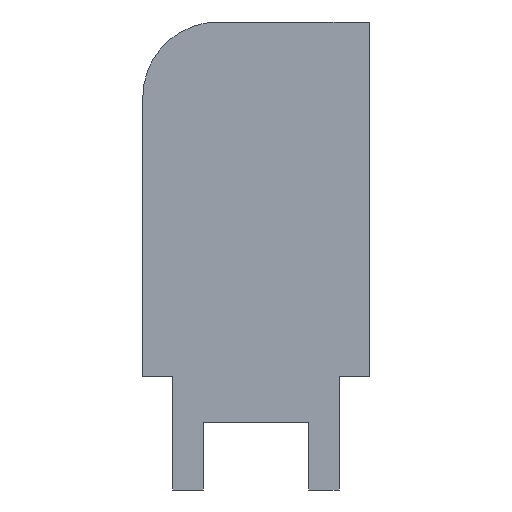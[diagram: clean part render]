
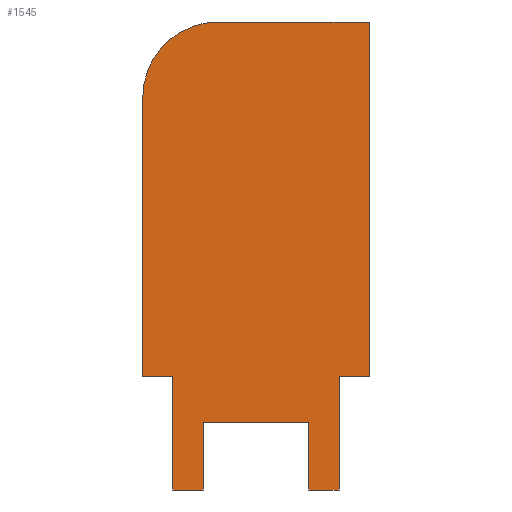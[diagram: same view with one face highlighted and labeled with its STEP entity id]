
A CAD part, left-side view. The second image highlights one B-rep face of the part: STEP entity #1545.
In plain terms, the highlighted planar face has unit normal (-1, 0, 0).
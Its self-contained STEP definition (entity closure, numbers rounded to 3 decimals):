
#64=PLANE('',#1651);
#146=FACE_OUTER_BOUND('',#237,.T.);
#237=EDGE_LOOP('',(#1410,#1411,#1412,#1413,#1414,#1415,#1416,#1417,#1418,
#1419,#1420,#1421,#1422));
#256=CIRCLE('',#1639,5.);
#392=LINE('',#2981,#499);
#396=LINE('',#2989,#503);
#399=LINE('',#2996,#506);
#403=LINE('',#3004,#510);
#406=LINE('',#3010,#513);
#409=LINE('',#3016,#516);
#412=LINE('',#3021,#519);
#420=LINE('',#3036,#527);
#421=LINE('',#3039,#528);
#456=LINE('',#5888,#563);
#463=LINE('',#5901,#570);
#468=LINE('',#5914,#575);
#499=VECTOR('',#1770,10.);
#503=VECTOR('',#1776,10.);
#506=VECTOR('',#1781,10.);
#510=VECTOR('',#1787,10.);
#513=VECTOR('',#1792,10.);
#516=VECTOR('',#1797,10.);
#519=VECTOR('',#1802,10.);
#527=VECTOR('',#1812,10.);
#528=VECTOR('',#1815,10.);
#563=VECTOR('',#1912,10.);
#570=VECTOR('',#1923,10.);
#575=VECTOR('',#1940,10.);
#660=VERTEX_POINT('',#2979);
#661=VERTEX_POINT('',#2980);
#664=VERTEX_POINT('',#2988);
#666=VERTEX_POINT('',#2994);
#667=VERTEX_POINT('',#2995);
#670=VERTEX_POINT('',#3003);
#672=VERTEX_POINT('',#3009);
#674=VERTEX_POINT('',#3015);
#681=VERTEX_POINT('',#3034);
#682=VERTEX_POINT('',#3038);
#720=VERTEX_POINT('',#5879);
#721=VERTEX_POINT('',#5880);
#724=VERTEX_POINT('',#5893);
#832=EDGE_CURVE('',#660,#661,#392,.T.);
#836=EDGE_CURVE('',#664,#660,#396,.T.);
#839=EDGE_CURVE('',#666,#667,#399,.T.);
#843=EDGE_CURVE('',#670,#666,#403,.T.);
#846=EDGE_CURVE('',#672,#670,#406,.T.);
#849=EDGE_CURVE('',#674,#672,#409,.T.);
#852=EDGE_CURVE('',#661,#674,#412,.T.);
#860=EDGE_CURVE('',#681,#664,#420,.T.);
#861=EDGE_CURVE('',#667,#682,#421,.T.);
#942=EDGE_CURVE('',#720,#721,#256,.T.);
#946=EDGE_CURVE('',#682,#720,#456,.T.);
#953=EDGE_CURVE('',#724,#721,#463,.T.);
#960=EDGE_CURVE('',#681,#724,#468,.T.);
#1410=ORIENTED_EDGE('',*,*,#960,.T.);
#1411=ORIENTED_EDGE('',*,*,#953,.T.);
#1412=ORIENTED_EDGE('',*,*,#942,.F.);
#1413=ORIENTED_EDGE('',*,*,#946,.F.);
#1414=ORIENTED_EDGE('',*,*,#861,.F.);
#1415=ORIENTED_EDGE('',*,*,#839,.F.);
#1416=ORIENTED_EDGE('',*,*,#843,.F.);
#1417=ORIENTED_EDGE('',*,*,#846,.F.);
#1418=ORIENTED_EDGE('',*,*,#849,.F.);
#1419=ORIENTED_EDGE('',*,*,#852,.F.);
#1420=ORIENTED_EDGE('',*,*,#832,.F.);
#1421=ORIENTED_EDGE('',*,*,#836,.F.);
#1422=ORIENTED_EDGE('',*,*,#860,.F.);
#1545=ADVANCED_FACE('',(#146),#64,.T.);
#1639=AXIS2_PLACEMENT_3D('',#5881,#1904,#1905);
#1651=AXIS2_PLACEMENT_3D('',#5916,#1943,#1944);
#1770=DIRECTION('',(0.,1.,0.));
#1776=DIRECTION('',(0.,0.,-1.));
#1781=DIRECTION('',(0.,0.,1.));
#1787=DIRECTION('',(0.,1.,0.));
#1792=DIRECTION('',(0.,0.,-1.));
#1797=DIRECTION('',(0.,1.,0.));
#1802=DIRECTION('',(0.,0.,1.));
#1812=DIRECTION('',(0.,1.,0.));
#1815=DIRECTION('',(0.,1.,0.));
#1904=DIRECTION('center_axis',(1.,0.,0.));
#1905=DIRECTION('ref_axis',(0.,1.,0.));
#1912=DIRECTION('',(0.,0.,1.));
#1923=DIRECTION('',(0.,1.,0.));
#1940=DIRECTION('',(0.,0.,1.));
#1943=DIRECTION('center_axis',(-1.,0.,0.));
#1944=DIRECTION('ref_axis',(0.,0.,1.));
#2979=CARTESIAN_POINT('',(-25.8,2.,-7.5));
#2980=CARTESIAN_POINT('',(-25.8,4.,-7.5));
#2981=CARTESIAN_POINT('',(-25.8,2.,-7.5));
#2988=CARTESIAN_POINT('',(-25.8,2.,0.));
#2989=CARTESIAN_POINT('',(-25.8,2.,0.));
#2994=CARTESIAN_POINT('',(-25.8,13.,-7.5));
#2995=CARTESIAN_POINT('',(-25.8,13.,0.));
#2996=CARTESIAN_POINT('',(-25.8,13.,-7.5));
#3003=CARTESIAN_POINT('',(-25.8,11.,-7.5));
#3004=CARTESIAN_POINT('',(-25.8,11.,-7.5));
#3009=CARTESIAN_POINT('',(-25.8,11.,-3.));
#3010=CARTESIAN_POINT('',(-25.8,11.,-3.));
#3015=CARTESIAN_POINT('',(-25.8,4.,-3.));
#3016=CARTESIAN_POINT('',(-25.8,4.,-3.));
#3021=CARTESIAN_POINT('',(-25.8,4.,-7.5));
#3034=CARTESIAN_POINT('',(-25.8,0.,0.));
#3036=CARTESIAN_POINT('',(-25.8,0.,0.));
#3038=CARTESIAN_POINT('',(-25.8,15.,0.));
#3039=CARTESIAN_POINT('',(-25.8,0.,0.));
#5879=CARTESIAN_POINT('',(-25.8,15.,18.5));
#5880=CARTESIAN_POINT('',(-25.8,10.,23.5));
#5881=CARTESIAN_POINT('Origin',(-25.8,10.,18.5));
#5888=CARTESIAN_POINT('',(-25.8,15.,0.));
#5893=CARTESIAN_POINT('',(-25.8,0.,23.5));
#5901=CARTESIAN_POINT('',(-25.8,0.,23.5));
#5914=CARTESIAN_POINT('',(-25.8,0.,0.));
#5916=CARTESIAN_POINT('Origin',(-25.8,0.,0.));
